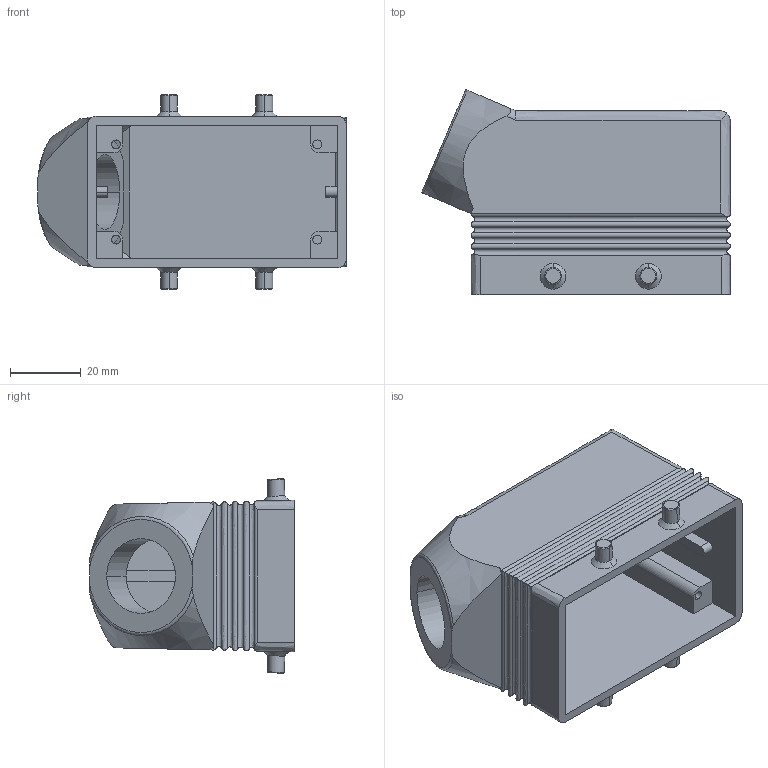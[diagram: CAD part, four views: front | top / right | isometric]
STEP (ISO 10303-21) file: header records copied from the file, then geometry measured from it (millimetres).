
FILE_DESCRIPTION (( 'STEP AP214' ), '1' );
FILE_NAME ('CHO-10.STEP', '2006-06-22T16:34:16', ( 'Bruce Mistarz' ), ( 'Mencom Corp' ), 'SwSTEP 2.0', 'SolidWorks 2006104', '' );
FILE_SCHEMA (( 'AUTOMOTIVE_DESIGN' ));
Length unit declared in the file: inch
Products named in the file (1): CHO-10
Bounding box: 87.47 x 58.06 x 55.05 mm (x, y, z)
Volume: 44130.8 mm3; surface area: 33465.7 mm2
Topology: 1 solids, 1 shells, 159 faces, 420 edges, 264 vertices
Faces by surface type: plane 60, cylinder 51, bspline 26, cone 12, torus 10
Entity records: 6126 total; most frequent: CARTESIAN_POINT 2463, ORIENTED_EDGE 840, DIRECTION 644, EDGE_CURVE 420, VERTEX_POINT 264, AXIS2_PLACEMENT_3D 224, VECTOR 196, LINE 196
